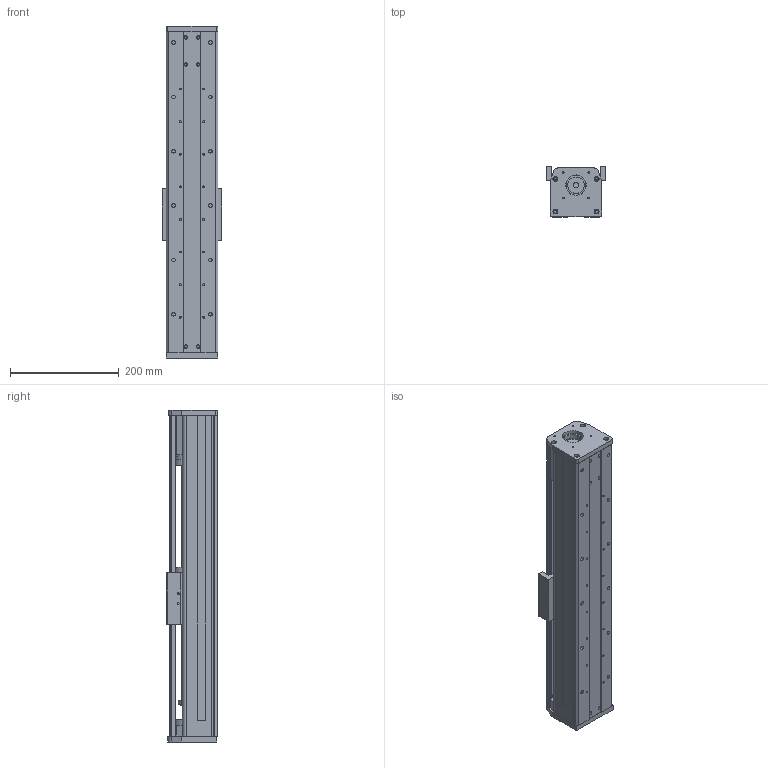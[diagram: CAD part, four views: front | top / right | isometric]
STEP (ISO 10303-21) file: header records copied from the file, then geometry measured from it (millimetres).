
FILE_DESCRIPTION (( 'STEP AP203' ), '1' );
FILE_NAME ('CF95-2-P350.STEP', '2016-02-22T06:35:19', ( 'Sky123.Org' ), ( 'Sky123.Org' ), 'SwSTEP 2.0', 'SolidWorks 2015', '' );
FILE_SCHEMA (( 'CONFIG_CONTROL_DESIGN' ));
Length unit declared in the file: millimetre
Products named in the file (19): 坶踡蹟譫M12-1; 95裔啣-1; 95-2邧寢賑輸; HGR15絳寢; SFU1604-3; hGH15CA賑輸; 95滅袉蝶菜; CF95-57萇儂假蚾啣; 95-2耜啣; CF95固定座（配30-42联轴器）; deep groove ball bearings gb_Rolling bearings 6001 GB 276-94; angular contact ball bearings gb_Rolling bearings S7001 GB 292-94; CF95-2臏倰第; circlips for shaft--type a large gb_GB_CONNECTING_PIECE_RING_RRA 12; 30-42薊粣ん; 95粣創裔啣; CF95-2-P350; 95盓厥傷; SFS1610-520
Assembly tree (22 placements, depth 2):
  CF95-2-P350
    CF95-2臏倰第
    95粣創裔啣
    SFS1610-520
    95裔啣-1
    HGR15絳寢  x2
    hGH15CA賑輸  x2
    CF95-57萇儂假蚾啣
    CF95固定座（配30-42联轴器）
    angular contact ball bearings gb_Rolling bearings S7001 GB 292-94  x2
    30-42薊粣ん
    95盓厥傷
    坶踡蹟譫M12-1
    95-2邧寢賑輸
    SFU1604-3
    95滅袉蝶菜  x2
    95-2耜啣
    deep groove ball bearings gb_Rolling bearings 6001 GB 276-94
    circlips for shaft--type a large gb_GB_CONNECTING_PIECE_RING_RRA 12
Bounding box: 110 x 92.5 x 611 mm (x, y, z)
Volume: 2340977.9 mm3; surface area: 732359.6 mm2
Topology: 22 solids, 22 shells, 1345 faces, 4262 edges, 2838 vertices
Faces by surface type: cylinder 567, plane 524, torus 159, sphere 84, cone 10, bspline 1
Entity records: 43364 total; most frequent: CARTESIAN_POINT 11496, ORIENTED_EDGE 6370, DIRECTION 6248, EDGE_CURVE 3185, AXIS2_PLACEMENT_3D 2463, VERTEX_POINT 2115, EDGE_LOOP 1364, CIRCLE 1345
